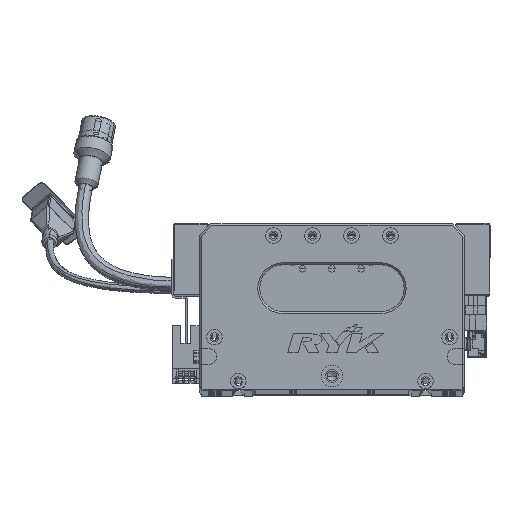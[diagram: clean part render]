
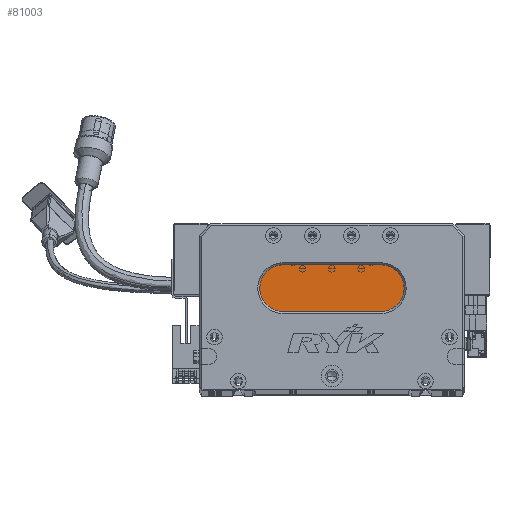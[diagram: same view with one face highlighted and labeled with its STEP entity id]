
A CAD part, top view. The second image highlights one B-rep face of the part: STEP entity #81003.
In plain terms, the highlighted planar face has unit normal (0, 0, 1) as drawn and (0, 0, -1) by its records, which use the part's own axes.
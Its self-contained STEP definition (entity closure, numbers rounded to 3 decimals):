
#881 = DIRECTION ( 'NONE',  ( -1., 0., 0. ) ) ;
#1983 = CIRCLE ( 'NONE', #22125, 12. ) ;
#2131 = ORIENTED_EDGE ( 'NONE', *, *, #64828, .T. ) ;
#4233 = ORIENTED_EDGE ( 'NONE', *, *, #94180, .T. ) ;
#4259 = DIRECTION ( 'NONE',  ( -1., 0., 0. ) ) ;
#7656 = CIRCLE ( 'NONE', #22917, 12. ) ;
#8158 = CARTESIAN_POINT ( 'NONE',  ( 93., 40., 13. ) ) ;
#8931 = CIRCLE ( 'NONE', #67915, 12. ) ;
#12506 = VECTOR ( 'NONE', #881, 1000. ) ;
#16785 = PLANE ( 'NONE',  #102539 ) ;
#16984 = EDGE_CURVE ( 'NONE', #25491, #18828, #58268, .T. ) ;
#18828 = VERTEX_POINT ( 'NONE', #57808 ) ;
#22125 = AXIS2_PLACEMENT_3D ( 'NONE', #40574, #57996, #75116 ) ;
#22917 = AXIS2_PLACEMENT_3D ( 'NONE', #104099, #54089, #4259 ) ;
#24803 = DIRECTION ( 'NONE',  ( 0., 0., -1. ) ) ;
#25491 = VERTEX_POINT ( 'NONE', #69979 ) ;
#29140 = ORIENTED_EDGE ( 'NONE', *, *, #16984, .T. ) ;
#31149 = VERTEX_POINT ( 'NONE', #104253 ) ;
#31321 = DIRECTION ( 'NONE',  ( 0., 0., -1. ) ) ;
#34223 = VERTEX_POINT ( 'NONE', #51380 ) ;
#36270 = EDGE_CURVE ( 'NONE', #66560, #34223, #8931, .T. ) ;
#40574 = CARTESIAN_POINT ( 'NONE',  ( 93., 52., 13. ) ) ;
#40636 = ORIENTED_EDGE ( 'NONE', *, *, #69856, .T. ) ;
#41177 = CARTESIAN_POINT ( 'NONE',  ( 93., 52., 13. ) ) ;
#41881 = DIRECTION ( 'NONE',  ( -1., 0., 0. ) ) ;
#42689 = CARTESIAN_POINT ( 'NONE',  ( 43., 40., 13. ) ) ;
#51380 = CARTESIAN_POINT ( 'NONE',  ( 31., 52., 13. ) ) ;
#53046 = VECTOR ( 'NONE', #56103, 1000. ) ;
#54089 = DIRECTION ( 'NONE',  ( 0., 0., -1. ) ) ;
#56103 = DIRECTION ( 'NONE',  ( 1., 0., 0. ) ) ;
#57808 = CARTESIAN_POINT ( 'NONE',  ( 93., 64., 13. ) ) ;
#57996 = DIRECTION ( 'NONE',  ( 0., 0., -1. ) ) ;
#58268 = LINE ( 'NONE', #80884, #53046 ) ;
#64828 = EDGE_CURVE ( 'NONE', #31149, #66560, #97201, .T. ) ;
#66560 = VERTEX_POINT ( 'NONE', #42689 ) ;
#67915 = AXIS2_PLACEMENT_3D ( 'NONE', #81184, #31321, #106042 ) ;
#68785 = FACE_OUTER_BOUND ( 'NONE', #68887, .T. ) ;
#68887 = EDGE_LOOP ( 'NONE', ( #4233, #2131, #74560, #40636, #29140 ) ) ;
#69856 = EDGE_CURVE ( 'NONE', #34223, #25491, #7656, .T. ) ;
#69979 = CARTESIAN_POINT ( 'NONE',  ( 43., 64., 13. ) ) ;
#74560 = ORIENTED_EDGE ( 'NONE', *, *, #36270, .T. ) ;
#75116 = DIRECTION ( 'NONE',  ( -1., 0., 0. ) ) ;
#80884 = CARTESIAN_POINT ( 'NONE',  ( 93., 64., 13. ) ) ;
#81003 = ADVANCED_FACE ( 'NONE', ( #68785 ), #16785, .T. ) ;
#81184 = CARTESIAN_POINT ( 'NONE',  ( 43., 52., 13. ) ) ;
#94180 = EDGE_CURVE ( 'NONE', #18828, #31149, #1983, .T. ) ;
#97201 = LINE ( 'NONE', #8158, #12506 ) ;
#102539 = AXIS2_PLACEMENT_3D ( 'NONE', #41177, #24803, #41881 ) ;
#104099 = CARTESIAN_POINT ( 'NONE',  ( 43., 52., 13. ) ) ;
#104253 = CARTESIAN_POINT ( 'NONE',  ( 93., 40., 13. ) ) ;
#106042 = DIRECTION ( 'NONE',  ( -1., 0., 0. ) ) ;
